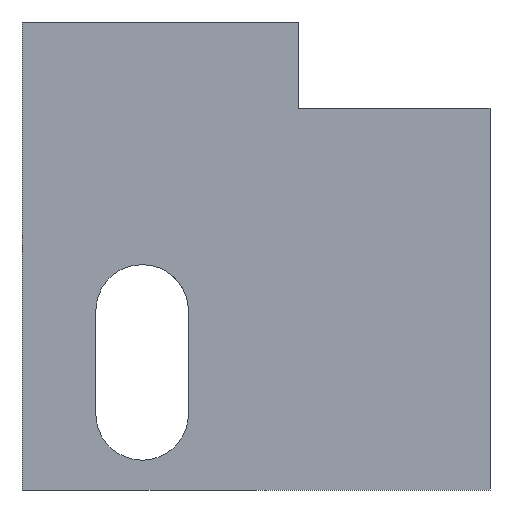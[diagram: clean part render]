
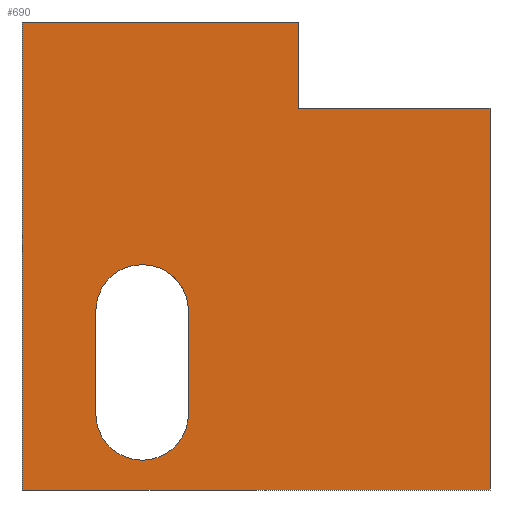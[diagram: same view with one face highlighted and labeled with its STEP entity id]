
A CAD part, left-side view. The second image highlights one B-rep face of the part: STEP entity #690.
In plain terms, the highlighted planar face has unit normal (-1, 0, 0).
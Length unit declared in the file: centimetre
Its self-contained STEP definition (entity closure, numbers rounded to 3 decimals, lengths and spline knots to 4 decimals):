
#3 = CARTESIAN_POINT ( 'NONE',  ( 0., 1000., 0. ) ) ;
#13 = VERTEX_POINT ( 'NONE', #712 ) ;
#17 = DIRECTION ( 'NONE',  ( 0., 1., 0. ) ) ;
#34 = LINE ( 'NONE', #257, #652 ) ;
#56 = LINE ( 'NONE', #3, #230 ) ;
#60 = CARTESIAN_POINT ( 'NONE',  ( 0., 644.1759, 162.812 ) ) ;
#102 = DIRECTION ( 'NONE',  ( 0., -1., 0. ) ) ;
#103 = CARTESIAN_POINT ( 'NONE',  ( 0., 743.2962, 481.4504 ) ) ;
#105 = AXIS2_PLACEMENT_3D ( 'NONE', #655, #383, #710 ) ;
#113 = VERTEX_POINT ( 'NONE', #666 ) ;
#119 = DIRECTION ( 'NONE',  ( 0., 0., 1. ) ) ;
#127 = EDGE_LOOP ( 'NONE', ( #159, #658, #469, #388, #434 ) ) ;
#130 = CARTESIAN_POINT ( 'NONE',  ( 0., 410.2026, 1000. ) ) ;
#131 = EDGE_CURVE ( 'NONE', #113, #259, #358, .T. ) ;
#140 = DIRECTION ( 'NONE',  ( 0., 0., -1. ) ) ;
#144 = ORIENTED_EDGE ( 'NONE', *, *, #579, .T. ) ;
#154 = VERTEX_POINT ( 'NONE', #269 ) ;
#159 = ORIENTED_EDGE ( 'NONE', *, *, #437, .F. ) ;
#160 = EDGE_CURVE ( 'NONE', #500, #413, #166, .T. ) ;
#165 = CARTESIAN_POINT ( 'NONE',  ( 0., 410.2026, 815.5517 ) ) ;
#166 = LINE ( 'NONE', #264, #442 ) ;
#172 = ORIENTED_EDGE ( 'NONE', *, *, #423, .T. ) ;
#175 = DIRECTION ( 'NONE',  ( -1., 0., 0. ) ) ;
#178 = DIRECTION ( 'NONE',  ( 0., 0., -1. ) ) ;
#191 = FACE_OUTER_BOUND ( 'NONE', #284, .T. ) ;
#203 = CARTESIAN_POINT ( 'NONE',  ( 0., 0., 815.5517 ) ) ;
#206 = EDGE_CURVE ( 'NONE', #154, #654, #396, .T. ) ;
#230 = VECTOR ( 'NONE', #102, 100. ) ;
#236 = LINE ( 'NONE', #702, #301 ) ;
#252 = AXIS2_PLACEMENT_3D ( 'NONE', #692, #175, #119 ) ;
#257 = CARTESIAN_POINT ( 'NONE',  ( 0., 1000., 1000. ) ) ;
#259 = VERTEX_POINT ( 'NONE', #103 ) ;
#264 = CARTESIAN_POINT ( 'NONE',  ( 0., 1000., 1000. ) ) ;
#269 = CARTESIAN_POINT ( 'NONE',  ( 0., 842.4166, 382.3301 ) ) ;
#277 = DIRECTION ( 'NONE',  ( 0., 0., -1. ) ) ;
#284 = EDGE_LOOP ( 'NONE', ( #429, #464, #144, #717, #613, #172 ) ) ;
#287 = EDGE_CURVE ( 'NONE', #500, #661, #34, .T. ) ;
#291 = VERTEX_POINT ( 'NONE', #203 ) ;
#301 = VECTOR ( 'NONE', #17, 100. ) ;
#305 = CIRCLE ( 'NONE', #252, 99.1204 ) ;
#319 = EDGE_CURVE ( 'NONE', #654, #13, #305, .T. ) ;
#325 = DIRECTION ( 'NONE',  ( 0., 0., -1. ) ) ;
#331 = AXIS2_PLACEMENT_3D ( 'NONE', #540, #599, #140 ) ;
#340 = CARTESIAN_POINT ( 'NONE',  ( 0., 1000., 1000. ) ) ;
#342 = VECTOR ( 'NONE', #689, 100. ) ;
#354 = CIRCLE ( 'NONE', #530, 99.1204 ) ;
#358 = CIRCLE ( 'NONE', #105, 99.1204 ) ;
#375 = VERTEX_POINT ( 'NONE', #626 ) ;
#383 = DIRECTION ( 'NONE',  ( -1., 0., 0. ) ) ;
#388 = ORIENTED_EDGE ( 'NONE', *, *, #631, .F. ) ;
#396 = LINE ( 'NONE', #443, #732 ) ;
#413 = VERTEX_POINT ( 'NONE', #516 ) ;
#417 = CARTESIAN_POINT ( 'NONE',  ( 0., 743.2962, 382.3301 ) ) ;
#420 = DIRECTION ( 'NONE',  ( 0., 0., 1. ) ) ;
#423 = EDGE_CURVE ( 'NONE', #413, #375, #56, .T. ) ;
#429 = ORIENTED_EDGE ( 'NONE', *, *, #657, .F. ) ;
#434 = ORIENTED_EDGE ( 'NONE', *, *, #131, .F. ) ;
#437 = EDGE_CURVE ( 'NONE', #13, #113, #456, .T. ) ;
#442 = VECTOR ( 'NONE', #325, 100. ) ;
#443 = CARTESIAN_POINT ( 'NONE',  ( 0., 842.4166, 382.3301 ) ) ;
#445 = VERTEX_POINT ( 'NONE', #165 ) ;
#456 = LINE ( 'NONE', #60, #342 ) ;
#464 = ORIENTED_EDGE ( 'NONE', *, *, #650, .T. ) ;
#469 = ORIENTED_EDGE ( 'NONE', *, *, #206, .F. ) ;
#471 = CARTESIAN_POINT ( 'NONE',  ( 0., 842.4166, 162.812 ) ) ;
#473 = DIRECTION ( 'NONE',  ( -1., 0., 0. ) ) ;
#477 = LINE ( 'NONE', #644, #648 ) ;
#494 = DIRECTION ( 'NONE',  ( 0., -1., 0. ) ) ;
#500 = VERTEX_POINT ( 'NONE', #340 ) ;
#516 = CARTESIAN_POINT ( 'NONE',  ( 0., 1000., 0. ) ) ;
#530 = AXIS2_PLACEMENT_3D ( 'NONE', #417, #473, #420 ) ;
#540 = CARTESIAN_POINT ( 'NONE',  ( 0., 1000., 1000. ) ) ;
#579 = EDGE_CURVE ( 'NONE', #445, #661, #641, .T. ) ;
#583 = DIRECTION ( 'NONE',  ( 0., 0., 1. ) ) ;
#593 = FACE_BOUND ( 'NONE', #127, .T. ) ;
#598 = VECTOR ( 'NONE', #583, 100. ) ;
#599 = DIRECTION ( 'NONE',  ( 1., 0., 0. ) ) ;
#613 = ORIENTED_EDGE ( 'NONE', *, *, #160, .T. ) ;
#626 = CARTESIAN_POINT ( 'NONE',  ( 0., 0., 0. ) ) ;
#631 = EDGE_CURVE ( 'NONE', #259, #154, #354, .T. ) ;
#641 = LINE ( 'NONE', #699, #598 ) ;
#644 = CARTESIAN_POINT ( 'NONE',  ( 0., 0., 1000. ) ) ;
#648 = VECTOR ( 'NONE', #178, 100. ) ;
#650 = EDGE_CURVE ( 'NONE', #291, #445, #236, .T. ) ;
#652 = VECTOR ( 'NONE', #494, 100. ) ;
#654 = VERTEX_POINT ( 'NONE', #471 ) ;
#655 = CARTESIAN_POINT ( 'NONE',  ( 0., 743.2962, 382.3301 ) ) ;
#657 = EDGE_CURVE ( 'NONE', #291, #375, #477, .T. ) ;
#658 = ORIENTED_EDGE ( 'NONE', *, *, #319, .F. ) ;
#661 = VERTEX_POINT ( 'NONE', #130 ) ;
#666 = CARTESIAN_POINT ( 'NONE',  ( 0., 644.1759, 382.3301 ) ) ;
#689 = DIRECTION ( 'NONE',  ( 0., 0., 1. ) ) ;
#690 = ADVANCED_FACE ( 'NONE', ( #593, #191 ), #701, .F. ) ;
#692 = CARTESIAN_POINT ( 'NONE',  ( 0., 743.2962, 162.812 ) ) ;
#699 = CARTESIAN_POINT ( 'NONE',  ( 0., 410.2026, 815.5517 ) ) ;
#701 = PLANE ( 'NONE',  #331 ) ;
#702 = CARTESIAN_POINT ( 'NONE',  ( 0., 0., 815.5517 ) ) ;
#710 = DIRECTION ( 'NONE',  ( 0., 0., 1. ) ) ;
#712 = CARTESIAN_POINT ( 'NONE',  ( 0., 644.1759, 162.812 ) ) ;
#717 = ORIENTED_EDGE ( 'NONE', *, *, #287, .F. ) ;
#732 = VECTOR ( 'NONE', #277, 100. ) ;
